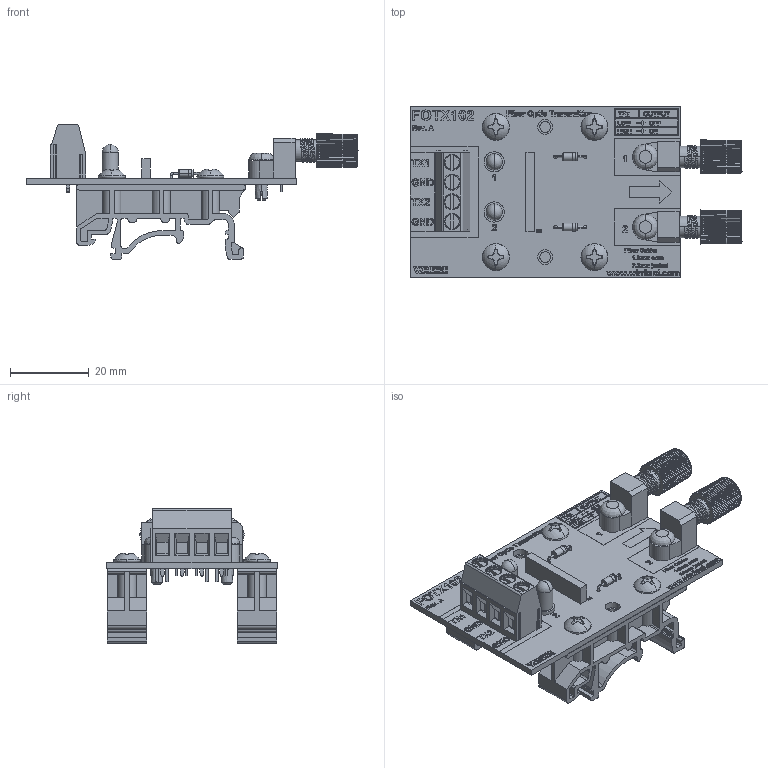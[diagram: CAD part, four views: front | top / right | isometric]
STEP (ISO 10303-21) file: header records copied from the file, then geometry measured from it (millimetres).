
FILE_DESCRIPTION (( 'STEP AP214' ), '1' );
FILE_NAME ('fotx102-din_rev_a.step', '2022-05-02T13:45:16', ( '' ), ( '' ), 'SwSTEP 2.0', 'SolidWorks 2018', '' );
FILE_SCHEMA (( 'AUTOMOTIVE_DESIGN' ));
Length unit declared in the file: inch
Products named in the file (4): dinm01; fotx102-din_rev_a; fotx102_Board; Screw_SCSMPP-6-0.375_90184A127
Assembly tree (7 placements, depth 2):
  fotx102-din_rev_a
    fotx102_Board
    dinm01  x2
    Screw_SCSMPP-6-0.375_90184A127  x4
Bounding box: 84.21 x 43.18 x 34.17 mm (x, y, z)
Volume: 14965.2 mm3; surface area: 20620.9 mm2
Topology: 16 solids, 16 shells, 3763 faces, 10202 edges, 6758 vertices
Faces by surface type: plane 2258, bspline 699, cylinder 566, cone 172, torus 56, sphere 12
Entity records: 179729 total; most frequent: CARTESIAN_POINT 66807, ORIENTED_EDGE 17872, DIRECTION 13377, EDGE_CURVE 8936, LINE 6053, VECTOR 6053, VERTEX_POINT 5923, AXIS2_PLACEMENT_3D 3662
